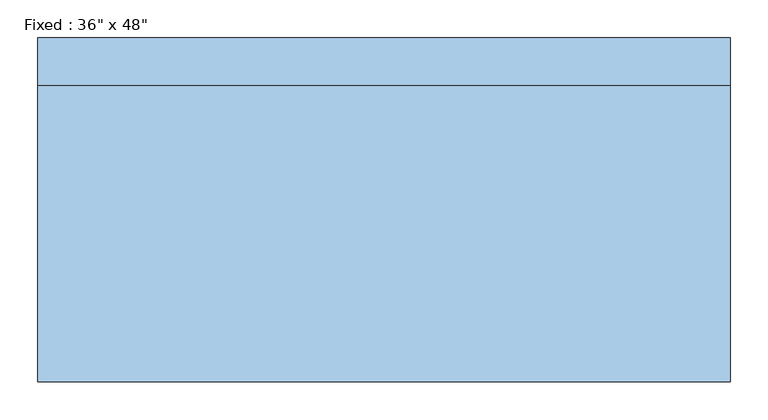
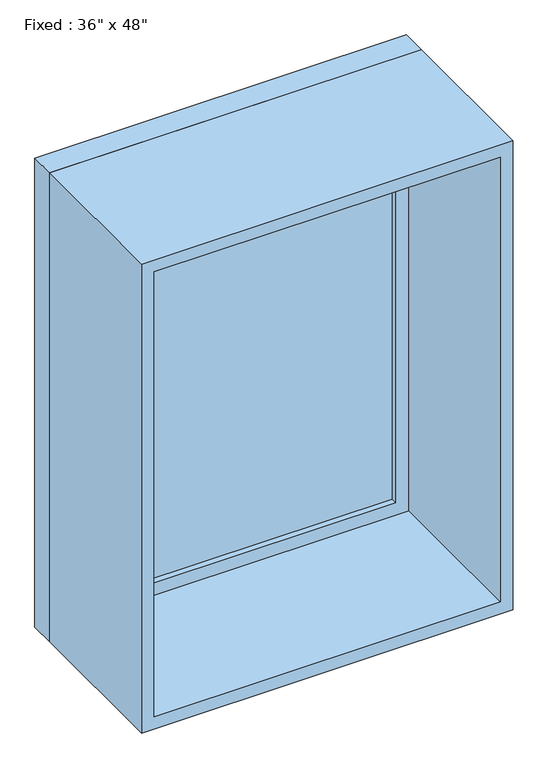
"""IFC4 building model written with IfcOpenShell, lengths in millimetres: window geometry."""

from ifc_helpers import new_model, si_unit, frame, origin, place, context, project, spatial, polyline, outline, extrude, source, transform, mapped, element, save


def window_035c3bc4(model_context):
    return source(origin(), model_context, "Body", "SweptSolid", [
        extrude(outline(polyline([(355.6, 179.3875), (-431.8, 179.3875), (-431.8, 192.0875), (355.6, 192.0875), (355.6, 179.3875)])), frame((0.0, 0.0, 977.9), z_axis=(0.0, 0.0, 1.0), x_axis=(1.0, 0.0, 0.0)), (0.0, 0.0, 1.0), 1092.2),
        extrude(outline(polyline([(2114.55, -476.25), (933.45, -476.25), (933.45, 400.05), (2114.55, 400.05), (2114.55, -476.25)]), holes=[polyline([(2070.1, -431.8), (2070.1, 355.6), (977.9, 355.6), (977.9, -431.8), (2070.1, -431.8)])]), frame((0.0, 163.5125, 0.0), z_axis=(0.0, 1.0, 0.0), x_axis=(0.0, 0.0, 1.0)), (0.0, 0.0, 1.0), 44.45),
        extrude(outline(polyline([(2133.6, -495.3), (914.4, -495.3), (914.4, 419.1), (2133.6, 419.1), (2133.6, -495.3)]), holes=[polyline([(2101.85, -463.55), (2101.85, 387.35), (946.15, 387.35), (946.15, -463.55), (2101.85, -463.55)])]), frame((0.0, -227.0125, 0.0), z_axis=(0.0, 1.0, 0.0), x_axis=(0.0, 0.0, 1.0)), (0.0, 0.0, 1.0), 390.525),
        extrude(outline(polyline([(2133.6, 419.1), (2133.6, -495.3), (914.4, -495.3), (914.4, 419.1), (2133.6, 419.1)]), holes=[polyline([(2114.55, 400.05), (933.45, 400.05), (933.45, -476.25), (2114.55, -476.25), (2114.55, 400.05)])]), frame((0.0, 163.5125, 0.0), z_axis=(0.0, 1.0, 0.0), x_axis=(0.0, 0.0, 1.0)), (0.0, 0.0, 1.0), 63.5),
    ])


if __name__ == "__main__":
    model = new_model("IFC4")
    model_context = context("Model", 3, world=origin())
    ifc_project = project(units=[si_unit("LENGTHUNIT", "METRE", prefix="MILLI")], contexts=[model_context])
    site = spatial("IfcSite", under=ifc_project)
    building = spatial("IfcBuilding", under=site)
    placement = place(None, origin())
    window_shape = window_035c3bc4(model_context)
    element("IfcWindow", 1, ObjectType="Fixed : 36\" x 48\"", at=placement, inside=building, context=model_context, shape_type="MappedRepresentation", body=[
        mapped(window_shape, transform((0.0, 0.0, 0.0), x_axis=(1.0, 0.0, 0.0), y_axis=(0.0, 1.0, 0.0), z_axis=(0.0, 0.0, 1.0))),
    ])
    save(model, "model.ifc")
